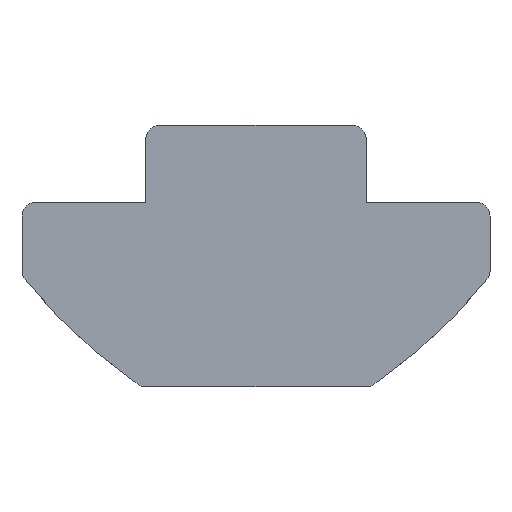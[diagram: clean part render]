
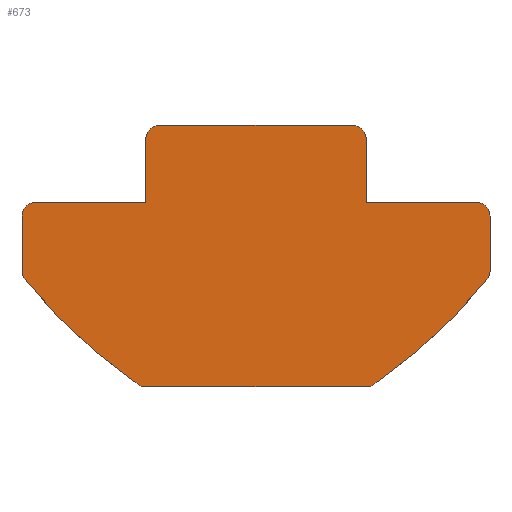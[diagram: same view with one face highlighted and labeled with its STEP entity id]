
A CAD part, top view. The second image highlights one B-rep face of the part: STEP entity #673.
In plain terms, the highlighted planar face has unit normal (0, 0, 1).
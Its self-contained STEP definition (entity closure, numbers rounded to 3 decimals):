
#49=CARTESIAN_POINT('',(3.5,0.0,1.0));
#50=VERTEX_POINT('',#49);
#51=CARTESIAN_POINT('',(4.0,-0.5,1.0));
#52=VERTEX_POINT('',#51);
#53=CARTESIAN_POINT('',(3.5,-0.5,1.0));
#54=DIRECTION('',(0.0,0.0,-1.));
#55=DIRECTION('',(0.707,0.707,0.0));
#56=AXIS2_PLACEMENT_3D('',#53,#54,#55);
#57=CIRCLE('',#56,0.5);
#58=EDGE_CURVE('',#50,#52,#57,.T.);
#100=CARTESIAN_POINT('',(-3.5,0.0,1.0));
#101=VERTEX_POINT('',#100);
#108=CARTESIAN_POINT('',(-3.5,0.0,1.0));
#109=DIRECTION('',(1.0,0.0,0.0));
#110=VECTOR('',#109,7.0);
#111=LINE('',#108,#110);
#112=EDGE_CURVE('',#101,#50,#111,.T.);
#267=CARTESIAN_POINT('',(-4.0,-0.5,1.0));
#268=VERTEX_POINT('',#267);
#269=CARTESIAN_POINT('',(-3.5,-0.5,1.0));
#270=DIRECTION('',(0.0,0.0,-1.0));
#271=DIRECTION('',(-0.707,0.707,0.0));
#272=AXIS2_PLACEMENT_3D('',#269,#270,#271);
#273=CIRCLE('',#272,0.5);
#274=EDGE_CURVE('',#268,#101,#273,.T.);
#292=CARTESIAN_POINT('',(-8.0,-2.8,1.0));
#293=VERTEX_POINT('',#292);
#294=CARTESIAN_POINT('',(-4.0,-2.8,1.0));
#295=VERTEX_POINT('',#294);
#296=CARTESIAN_POINT('',(-8.0,-2.8,1.0));
#297=DIRECTION('',(1.0,0.0,0.0));
#298=VECTOR('',#297,4.0);
#299=LINE('',#296,#298);
#300=EDGE_CURVE('',#293,#295,#299,.T.);
#326=CARTESIAN_POINT('',(-4.0,-2.8,1.0));
#327=DIRECTION('',(0.0,1.0,0.0));
#328=VECTOR('',#327,2.3);
#329=LINE('',#326,#328);
#330=EDGE_CURVE('',#295,#268,#329,.T.);
#341=CARTESIAN_POINT('',(4.0,-2.8,1.0));
#342=VERTEX_POINT('',#341);
#343=CARTESIAN_POINT('',(4.0,-0.5,1.0));
#344=DIRECTION('',(0.0,-1.0,0.0));
#345=VECTOR('',#344,2.3);
#346=LINE('',#343,#345);
#347=EDGE_CURVE('',#52,#342,#346,.T.);
#364=CARTESIAN_POINT('',(8.0,-2.8,1.0));
#365=VERTEX_POINT('',#364);
#366=CARTESIAN_POINT('',(4.0,-2.8,1.0));
#367=DIRECTION('',(1.0,0.0,0.0));
#368=VECTOR('',#367,4.0);
#369=LINE('',#366,#368);
#370=EDGE_CURVE('',#342,#365,#369,.T.);
#388=CARTESIAN_POINT('',(8.5,-3.3,1.0));
#389=VERTEX_POINT('',#388);
#390=CARTESIAN_POINT('',(8.0,-3.3,1.0));
#391=DIRECTION('',(0.0,0.0,-1.0));
#392=DIRECTION('',(1.0,0.0,0.0));
#393=AXIS2_PLACEMENT_3D('',#390,#391,#392);
#394=CIRCLE('',#393,0.5);
#395=EDGE_CURVE('',#365,#389,#394,.T.);
#413=CARTESIAN_POINT('',(8.5,-5.3,1.0));
#414=VERTEX_POINT('',#413);
#415=CARTESIAN_POINT('',(8.5,-3.3,1.0));
#416=DIRECTION('',(0.0,-1.0,0.0));
#417=VECTOR('',#416,2.);
#418=LINE('',#415,#417);
#419=EDGE_CURVE('',#389,#414,#418,.T.);
#437=CARTESIAN_POINT('',(8.387,-5.616,1.0));
#438=VERTEX_POINT('',#437);
#439=CARTESIAN_POINT('',(8.0,-5.3,1.0));
#440=DIRECTION('',(0.0,0.0,-1.0));
#441=DIRECTION('',(0.775,-0.632,0.0));
#442=AXIS2_PLACEMENT_3D('',#439,#440,#441);
#443=CIRCLE('',#442,0.5);
#444=EDGE_CURVE('',#414,#438,#443,.T.);
#462=CARTESIAN_POINT('',(4.285,-9.411,1.0));
#463=VERTEX_POINT('',#462);
#464=CARTESIAN_POINT('',(-7.111,7.025,1.0));
#465=DIRECTION('',(0.0,0.0,-1.0));
#466=DIRECTION('',(0.57,-0.822,0.0));
#467=AXIS2_PLACEMENT_3D('',#464,#465,#466);
#468=CIRCLE('',#467,20.0);
#469=EDGE_CURVE('',#438,#463,#468,.T.);
#487=CARTESIAN_POINT('',(4.0,-9.5,1.0));
#488=VERTEX_POINT('',#487);
#489=CARTESIAN_POINT('',(4.0,-9.,1.0));
#490=DIRECTION('',(0.0,0.0,-1.0));
#491=DIRECTION('',(0.0,-1.0,0.0));
#492=AXIS2_PLACEMENT_3D('',#489,#490,#491);
#493=CIRCLE('',#492,0.5);
#494=EDGE_CURVE('',#463,#488,#493,.T.);
#512=CARTESIAN_POINT('',(-4.0,-9.5,1.0));
#513=VERTEX_POINT('',#512);
#514=CARTESIAN_POINT('',(4.0,-9.5,1.0));
#515=DIRECTION('',(-1.0,0.0,0.0));
#516=VECTOR('',#515,8.0);
#517=LINE('',#514,#516);
#518=EDGE_CURVE('',#488,#513,#517,.T.);
#536=CARTESIAN_POINT('',(-4.285,-9.411,1.0));
#537=VERTEX_POINT('',#536);
#538=CARTESIAN_POINT('',(-4.0,-9.,1.0));
#539=DIRECTION('',(0.0,0.0,-1.));
#540=DIRECTION('',(-0.57,-0.822,0.0));
#541=AXIS2_PLACEMENT_3D('',#538,#539,#540);
#542=CIRCLE('',#541,0.5);
#543=EDGE_CURVE('',#513,#537,#542,.T.);
#561=CARTESIAN_POINT('',(-8.387,-5.616,1.0));
#562=VERTEX_POINT('',#561);
#563=CARTESIAN_POINT('',(7.111,7.025,1.0));
#564=DIRECTION('',(0.0,0.0,-1.0));
#565=DIRECTION('',(-0.775,-0.632,0.0));
#566=AXIS2_PLACEMENT_3D('',#563,#564,#565);
#567=CIRCLE('',#566,20.0);
#568=EDGE_CURVE('',#537,#562,#567,.T.);
#586=CARTESIAN_POINT('',(-8.5,-5.3,1.0));
#587=VERTEX_POINT('',#586);
#588=CARTESIAN_POINT('',(-8.0,-5.3,1.0));
#589=DIRECTION('',(0.0,0.0,-1.0));
#590=DIRECTION('',(-1.0,0.0,0.0));
#591=AXIS2_PLACEMENT_3D('',#588,#589,#590);
#592=CIRCLE('',#591,0.5);
#593=EDGE_CURVE('',#562,#587,#592,.T.);
#611=CARTESIAN_POINT('',(-8.5,-3.3,1.0));
#612=VERTEX_POINT('',#611);
#613=CARTESIAN_POINT('',(-8.5,-5.3,1.0));
#614=DIRECTION('',(0.0,1.0,0.0));
#615=VECTOR('',#614,2.);
#616=LINE('',#613,#615);
#617=EDGE_CURVE('',#587,#612,#616,.T.);
#635=CARTESIAN_POINT('',(-8.0,-3.3,1.0));
#636=DIRECTION('',(0.0,0.0,-1.0));
#637=DIRECTION('',(0.0,1.0,0.0));
#638=AXIS2_PLACEMENT_3D('',#635,#636,#637);
#639=CIRCLE('',#638,0.5);
#640=EDGE_CURVE('',#612,#293,#639,.T.);
#648=CARTESIAN_POINT('',(0.,-4.674,1.0));
#649=DIRECTION('',(0.0,0.0,1.0));
#650=DIRECTION('',(1.0,0.0,0.0));
#651=AXIS2_PLACEMENT_3D('',#648,#649,#650);
#652=PLANE('',#651);
#653=ORIENTED_EDGE('',*,*,#58,.F.);
#654=ORIENTED_EDGE('',*,*,#112,.F.);
#655=ORIENTED_EDGE('',*,*,#274,.F.);
#656=ORIENTED_EDGE('',*,*,#330,.F.);
#657=ORIENTED_EDGE('',*,*,#300,.F.);
#658=ORIENTED_EDGE('',*,*,#640,.F.);
#659=ORIENTED_EDGE('',*,*,#617,.F.);
#660=ORIENTED_EDGE('',*,*,#593,.F.);
#661=ORIENTED_EDGE('',*,*,#568,.F.);
#662=ORIENTED_EDGE('',*,*,#543,.F.);
#663=ORIENTED_EDGE('',*,*,#518,.F.);
#664=ORIENTED_EDGE('',*,*,#494,.F.);
#665=ORIENTED_EDGE('',*,*,#469,.F.);
#666=ORIENTED_EDGE('',*,*,#444,.F.);
#667=ORIENTED_EDGE('',*,*,#419,.F.);
#668=ORIENTED_EDGE('',*,*,#395,.F.);
#669=ORIENTED_EDGE('',*,*,#370,.F.);
#670=ORIENTED_EDGE('',*,*,#347,.F.);
#671=EDGE_LOOP('',(#653,#654,#655,#656,#657,#658,#659,#660,#661,#662,#663,#664,#665,#666,#667,#668,#669,#670));
#672=FACE_OUTER_BOUND('',#671,.T.);
#673=ADVANCED_FACE('',(#672),#652,.T.);
